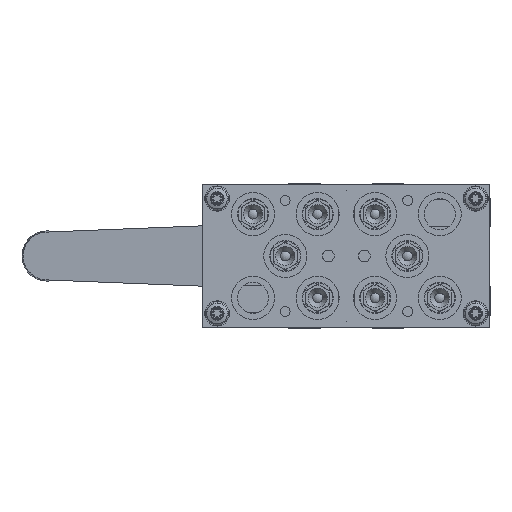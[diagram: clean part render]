
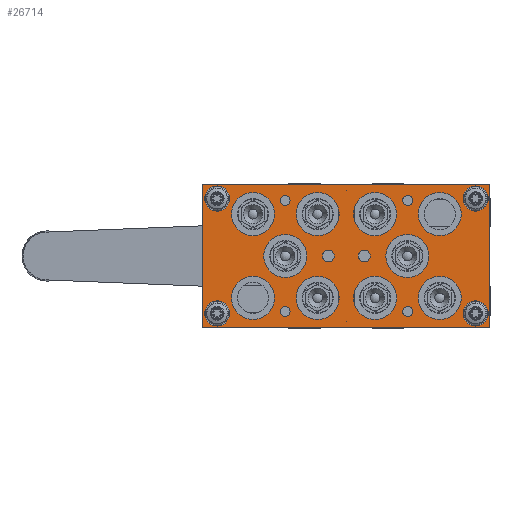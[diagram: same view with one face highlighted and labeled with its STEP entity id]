
A CAD part, left-side view. The second image highlights one B-rep face of the part: STEP entity #26714.
In plain terms, the highlighted planar face has unit normal (-1, 0, 0) as drawn and (0, 0, 1) by its records, which use the part's own axes.
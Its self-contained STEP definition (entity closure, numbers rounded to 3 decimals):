
#2527=LINE('',#63676,#3594);
#2531=LINE('',#63687,#3598);
#2535=LINE('',#63832,#3602);
#2536=LINE('',#63833,#3603);
#3594=VECTOR('',#33111,1000.);
#3598=VECTOR('',#33119,1000.);
#3602=VECTOR('',#33279,1000.);
#3603=VECTOR('',#33280,1000.);
#4040=PLANE('',#28621);
#9188=ORIENTED_EDGE('',*,*,#12028,.F.);
#9189=ORIENTED_EDGE('',*,*,#12029,.F.);
#9190=ORIENTED_EDGE('',*,*,#12030,.F.);
#9191=ORIENTED_EDGE('',*,*,#12031,.F.);
#9192=ORIENTED_EDGE('',*,*,#12032,.F.);
#9193=ORIENTED_EDGE('',*,*,#12033,.F.);
#9194=ORIENTED_EDGE('',*,*,#12034,.T.);
#9195=ORIENTED_EDGE('',*,*,#12035,.T.);
#9196=ORIENTED_EDGE('',*,*,#12036,.T.);
#9197=ORIENTED_EDGE('',*,*,#12037,.T.);
#9198=ORIENTED_EDGE('',*,*,#12038,.T.);
#9199=ORIENTED_EDGE('',*,*,#12039,.T.);
#9200=ORIENTED_EDGE('',*,*,#12040,.T.);
#9201=ORIENTED_EDGE('',*,*,#11970,.T.);
#9202=ORIENTED_EDGE('',*,*,#12041,.T.);
#9203=ORIENTED_EDGE('',*,*,#11975,.T.);
#9204=ORIENTED_EDGE('',*,*,#12042,.T.);
#9205=ORIENTED_EDGE('',*,*,#12043,.T.);
#9206=ORIENTED_EDGE('',*,*,#12044,.T.);
#9207=ORIENTED_EDGE('',*,*,#12045,.T.);
#9208=ORIENTED_EDGE('',*,*,#12046,.T.);
#9209=ORIENTED_EDGE('',*,*,#12047,.T.);
#9210=ORIENTED_EDGE('',*,*,#12048,.T.);
#9211=ORIENTED_EDGE('',*,*,#12049,.T.);
#11970=EDGE_CURVE('',#13708,#13707,#2527,.T.);
#11975=EDGE_CURVE('',#13713,#13712,#2531,.T.);
#12028=EDGE_CURVE('',#13763,#13763,#14616,.T.);
#12029=EDGE_CURVE('',#13764,#13764,#14617,.T.);
#12030=EDGE_CURVE('',#13765,#13765,#14618,.T.);
#12031=EDGE_CURVE('',#13766,#13766,#14619,.T.);
#12032=EDGE_CURVE('',#13767,#13767,#14620,.T.);
#12033=EDGE_CURVE('',#13768,#13768,#14621,.T.);
#12034=EDGE_CURVE('',#13769,#13769,#14622,.T.);
#12035=EDGE_CURVE('',#13770,#13770,#14623,.T.);
#12036=EDGE_CURVE('',#13771,#13771,#14624,.T.);
#12037=EDGE_CURVE('',#13772,#13772,#14625,.T.);
#12038=EDGE_CURVE('',#13773,#13773,#14626,.T.);
#12039=EDGE_CURVE('',#13774,#13774,#14627,.T.);
#12040=EDGE_CURVE('',#13775,#13775,#14628,.T.);
#12041=EDGE_CURVE('',#13707,#13713,#2535,.T.);
#12042=EDGE_CURVE('',#13712,#13708,#2536,.T.);
#12043=EDGE_CURVE('',#13776,#13776,#14629,.T.);
#12044=EDGE_CURVE('',#13777,#13777,#14630,.T.);
#12045=EDGE_CURVE('',#13778,#13778,#14631,.T.);
#12046=EDGE_CURVE('',#13779,#13779,#14632,.T.);
#12047=EDGE_CURVE('',#13780,#13780,#14633,.T.);
#12048=EDGE_CURVE('',#13781,#13781,#14634,.T.);
#12049=EDGE_CURVE('',#13782,#13782,#14635,.T.);
#13707=VERTEX_POINT('',#63675);
#13708=VERTEX_POINT('',#63677);
#13712=VERTEX_POINT('',#63686);
#13713=VERTEX_POINT('',#63688);
#13763=VERTEX_POINT('',#63807);
#13764=VERTEX_POINT('',#63809);
#13765=VERTEX_POINT('',#63811);
#13766=VERTEX_POINT('',#63813);
#13767=VERTEX_POINT('',#63815);
#13768=VERTEX_POINT('',#63817);
#13769=VERTEX_POINT('',#63819);
#13770=VERTEX_POINT('',#63821);
#13771=VERTEX_POINT('',#63823);
#13772=VERTEX_POINT('',#63825);
#13773=VERTEX_POINT('',#63827);
#13774=VERTEX_POINT('',#63829);
#13775=VERTEX_POINT('',#63831);
#13776=VERTEX_POINT('',#63835);
#13777=VERTEX_POINT('',#63837);
#13778=VERTEX_POINT('',#63839);
#13779=VERTEX_POINT('',#63841);
#13780=VERTEX_POINT('',#63843);
#13781=VERTEX_POINT('',#63845);
#13782=VERTEX_POINT('',#63847);
#14616=CIRCLE('',#28622,2.067);
#14617=CIRCLE('',#28623,2.067);
#14618=CIRCLE('',#28624,2.067);
#14619=CIRCLE('',#28625,2.067);
#14620=CIRCLE('',#28626,2.459);
#14621=CIRCLE('',#28627,2.459);
#14622=CIRCLE('',#28628,9.);
#14623=CIRCLE('',#28629,9.);
#14624=CIRCLE('',#28630,9.);
#14625=CIRCLE('',#28631,9.);
#14626=CIRCLE('',#28632,9.);
#14627=CIRCLE('',#28633,5.25);
#14628=CIRCLE('',#28634,5.25);
#14629=CIRCLE('',#28635,5.25);
#14630=CIRCLE('',#28636,9.);
#14631=CIRCLE('',#28637,9.);
#14632=CIRCLE('',#28638,9.);
#14633=CIRCLE('',#28639,9.);
#14634=CIRCLE('',#28640,9.);
#14635=CIRCLE('',#28641,5.25);
#16039=EDGE_LOOP('',(#9188));
#16040=EDGE_LOOP('',(#9189));
#16041=EDGE_LOOP('',(#9190));
#16042=EDGE_LOOP('',(#9191));
#16043=EDGE_LOOP('',(#9192));
#16044=EDGE_LOOP('',(#9193));
#16045=EDGE_LOOP('',(#9194));
#16046=EDGE_LOOP('',(#9195));
#16047=EDGE_LOOP('',(#9196));
#16048=EDGE_LOOP('',(#9197));
#16049=EDGE_LOOP('',(#9198));
#16050=EDGE_LOOP('',(#9199));
#16051=EDGE_LOOP('',(#9200));
#16052=EDGE_LOOP('',(#9201,#9202,#9203,#9204));
#16053=EDGE_LOOP('',(#9205));
#16054=EDGE_LOOP('',(#9206));
#16055=EDGE_LOOP('',(#9207));
#16056=EDGE_LOOP('',(#9208));
#16057=EDGE_LOOP('',(#9209));
#16058=EDGE_LOOP('',(#9210));
#16059=EDGE_LOOP('',(#9211));
#17580=FACE_BOUND('',#16039,.T.);
#17581=FACE_BOUND('',#16040,.T.);
#17582=FACE_BOUND('',#16041,.T.);
#17583=FACE_BOUND('',#16042,.T.);
#17584=FACE_BOUND('',#16043,.T.);
#17585=FACE_BOUND('',#16044,.T.);
#17586=FACE_BOUND('',#16045,.T.);
#17587=FACE_BOUND('',#16046,.T.);
#17588=FACE_BOUND('',#16047,.T.);
#17589=FACE_BOUND('',#16048,.T.);
#17590=FACE_BOUND('',#16049,.T.);
#17591=FACE_BOUND('',#16050,.T.);
#17592=FACE_BOUND('',#16051,.T.);
#17593=FACE_BOUND('',#16052,.T.);
#17594=FACE_BOUND('',#16053,.T.);
#17595=FACE_BOUND('',#16054,.T.);
#17596=FACE_BOUND('',#16055,.T.);
#17597=FACE_BOUND('',#16056,.T.);
#17598=FACE_BOUND('',#16057,.T.);
#17599=FACE_BOUND('',#16058,.T.);
#17600=FACE_BOUND('',#16059,.T.);
#26714=ADVANCED_FACE('',(#17580,#17581,#17582,#17583,#17584,#17585,#17586,
#17587,#17588,#17589,#17590,#17591,#17592,#17593,#17594,#17595,#17596,#17597,
#17598,#17599,#17600),#4040,.T.);
#28621=AXIS2_PLACEMENT_3D('',#63805,#33251,#33252);
#28622=AXIS2_PLACEMENT_3D('',#63806,#33253,#33254);
#28623=AXIS2_PLACEMENT_3D('',#63808,#33255,#33256);
#28624=AXIS2_PLACEMENT_3D('',#63810,#33257,#33258);
#28625=AXIS2_PLACEMENT_3D('',#63812,#33259,#33260);
#28626=AXIS2_PLACEMENT_3D('',#63814,#33261,#33262);
#28627=AXIS2_PLACEMENT_3D('',#63816,#33263,#33264);
#28628=AXIS2_PLACEMENT_3D('',#63818,#33265,#33266);
#28629=AXIS2_PLACEMENT_3D('',#63820,#33267,#33268);
#28630=AXIS2_PLACEMENT_3D('',#63822,#33269,#33270);
#28631=AXIS2_PLACEMENT_3D('',#63824,#33271,#33272);
#28632=AXIS2_PLACEMENT_3D('',#63826,#33273,#33274);
#28633=AXIS2_PLACEMENT_3D('',#63828,#33275,#33276);
#28634=AXIS2_PLACEMENT_3D('',#63830,#33277,#33278);
#28635=AXIS2_PLACEMENT_3D('',#63834,#33281,#33282);
#28636=AXIS2_PLACEMENT_3D('',#63836,#33283,#33284);
#28637=AXIS2_PLACEMENT_3D('',#63838,#33285,#33286);
#28638=AXIS2_PLACEMENT_3D('',#63840,#33287,#33288);
#28639=AXIS2_PLACEMENT_3D('',#63842,#33289,#33290);
#28640=AXIS2_PLACEMENT_3D('',#63844,#33291,#33292);
#28641=AXIS2_PLACEMENT_3D('',#63846,#33293,#33294);
#33111=DIRECTION('',(-1.,0.,0.));
#33119=DIRECTION('',(1.,0.,0.));
#33251=DIRECTION('',(0.,0.,1.));
#33252=DIRECTION('',(1.,0.,0.));
#33253=DIRECTION('',(0.,0.,1.));
#33254=DIRECTION('',(1.,0.,0.));
#33255=DIRECTION('',(0.,0.,1.));
#33256=DIRECTION('',(1.,0.,0.));
#33257=DIRECTION('',(0.,0.,1.));
#33258=DIRECTION('',(1.,0.,0.));
#33259=DIRECTION('',(0.,0.,1.));
#33260=DIRECTION('',(1.,0.,0.));
#33261=DIRECTION('',(0.,0.,1.));
#33262=DIRECTION('',(1.,0.,0.));
#33263=DIRECTION('',(0.,0.,1.));
#33264=DIRECTION('',(1.,0.,0.));
#33265=DIRECTION('',(0.,0.,-1.));
#33266=DIRECTION('',(1.,0.,0.));
#33267=DIRECTION('',(0.,0.,-1.));
#33268=DIRECTION('',(1.,0.,0.));
#33269=DIRECTION('',(0.,0.,-1.));
#33270=DIRECTION('',(1.,0.,0.));
#33271=DIRECTION('',(0.,0.,-1.));
#33272=DIRECTION('',(1.,0.,0.));
#33273=DIRECTION('',(0.,0.,-1.));
#33274=DIRECTION('',(1.,0.,0.));
#33275=DIRECTION('',(0.,0.,-1.));
#33276=DIRECTION('',(1.,0.,0.));
#33277=DIRECTION('',(0.,0.,-1.));
#33278=DIRECTION('',(1.,0.,0.));
#33279=DIRECTION('',(0.,-1.,0.));
#33280=DIRECTION('',(0.,1.,0.));
#33281=DIRECTION('',(0.,0.,-1.));
#33282=DIRECTION('',(1.,0.,0.));
#33283=DIRECTION('',(0.,0.,-1.));
#33284=DIRECTION('',(1.,0.,0.));
#33285=DIRECTION('',(0.,0.,-1.));
#33286=DIRECTION('',(1.,0.,0.));
#33287=DIRECTION('',(0.,0.,-1.));
#33288=DIRECTION('',(1.,0.,0.));
#33289=DIRECTION('',(0.,0.,-1.));
#33290=DIRECTION('',(1.,0.,0.));
#33291=DIRECTION('',(0.,0.,-1.));
#33292=DIRECTION('',(1.,0.,0.));
#33293=DIRECTION('',(0.,0.,-1.));
#33294=DIRECTION('',(1.,0.,0.));
#63675=CARTESIAN_POINT('',(-60.,30.,15.));
#63676=CARTESIAN_POINT('',(60.,30.,15.));
#63677=CARTESIAN_POINT('',(60.,30.,15.));
#63686=CARTESIAN_POINT('',(60.,-30.,15.));
#63687=CARTESIAN_POINT('',(-60.,-30.,15.));
#63688=CARTESIAN_POINT('',(-60.,-30.,15.));
#63805=CARTESIAN_POINT('',(-60.,30.,15.));
#63806=CARTESIAN_POINT('',(25.6,23.2,15.));
#63807=CARTESIAN_POINT('',(27.667,23.2,15.));
#63808=CARTESIAN_POINT('',(-25.6,23.2,15.));
#63809=CARTESIAN_POINT('',(-23.533,23.2,15.));
#63810=CARTESIAN_POINT('',(-25.6,-23.2,15.));
#63811=CARTESIAN_POINT('',(-23.533,-23.2,15.));
#63812=CARTESIAN_POINT('',(25.6,-23.2,15.));
#63813=CARTESIAN_POINT('',(27.667,-23.2,15.));
#63814=CARTESIAN_POINT('',(7.5,0.,15.));
#63815=CARTESIAN_POINT('',(9.959,0.,15.));
#63816=CARTESIAN_POINT('',(-7.5,0.,15.));
#63817=CARTESIAN_POINT('',(-5.041,0.,15.));
#63818=CARTESIAN_POINT('',(25.5,0.,15.));
#63819=CARTESIAN_POINT('',(34.5,0.,15.));
#63820=CARTESIAN_POINT('',(39.,17.5,15.));
#63821=CARTESIAN_POINT('',(48.,17.5,15.));
#63822=CARTESIAN_POINT('',(-39.,-17.5,15.));
#63823=CARTESIAN_POINT('',(-30.,-17.5,15.));
#63824=CARTESIAN_POINT('',(-12.,-17.5,15.));
#63825=CARTESIAN_POINT('',(-3.,-17.5,15.));
#63826=CARTESIAN_POINT('',(12.,17.5,15.));
#63827=CARTESIAN_POINT('',(21.,17.5,15.));
#63828=CARTESIAN_POINT('',(-54.,-24.,15.));
#63829=CARTESIAN_POINT('',(-48.75,-24.,15.));
#63830=CARTESIAN_POINT('',(54.,24.,15.));
#63831=CARTESIAN_POINT('',(59.25,24.,15.));
#63832=CARTESIAN_POINT('',(-60.,30.,15.));
#63833=CARTESIAN_POINT('',(60.,-30.,15.));
#63834=CARTESIAN_POINT('',(54.,-24.,15.));
#63835=CARTESIAN_POINT('',(59.25,-24.,15.));
#63836=CARTESIAN_POINT('',(-12.,17.5,15.));
#63837=CARTESIAN_POINT('',(-3.,17.5,15.));
#63838=CARTESIAN_POINT('',(12.,-17.5,15.));
#63839=CARTESIAN_POINT('',(21.,-17.5,15.));
#63840=CARTESIAN_POINT('',(-39.,17.5,15.));
#63841=CARTESIAN_POINT('',(-30.,17.5,15.));
#63842=CARTESIAN_POINT('',(39.,-17.5,15.));
#63843=CARTESIAN_POINT('',(48.,-17.5,15.));
#63844=CARTESIAN_POINT('',(-25.5,0.,15.));
#63845=CARTESIAN_POINT('',(-16.5,0.,15.));
#63846=CARTESIAN_POINT('',(-54.,24.,15.));
#63847=CARTESIAN_POINT('',(-48.75,24.,15.));
